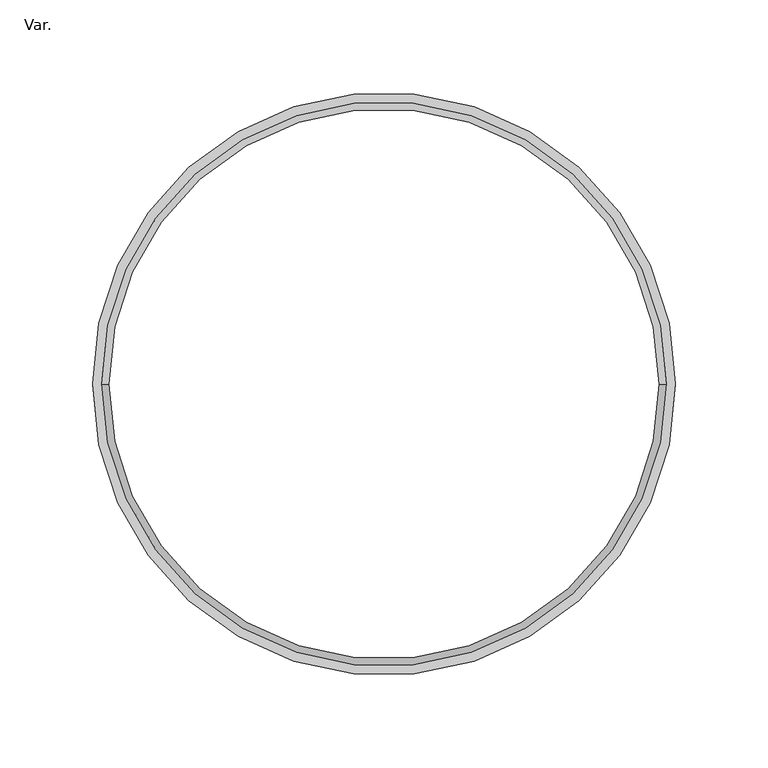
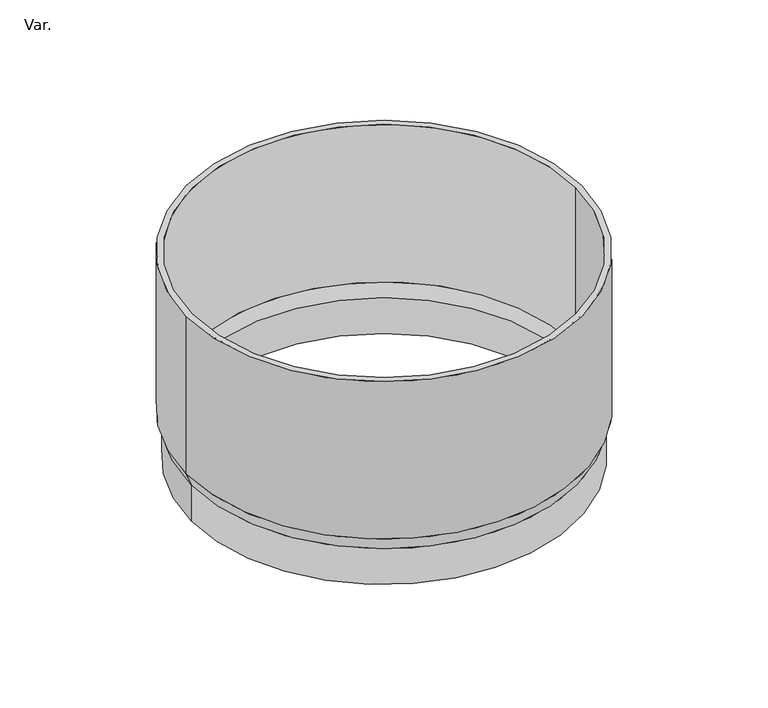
"""IFC4 building model written with IfcOpenShell, lengths in millimetres: pipe fitting geometry, AmancoWavin_ConexõesdeTubos_EsgotoZNãoUsarEsgotoProlongamento300mm : Var.."""

from ifc_helpers import new_model, si_unit, point, frame, origin, origin_2d, place, context, project, spatial, polyline, circle_curve, trimmed, segment, composite_curve, outline, extrude, source, transform, mapped, element, save
from ifc_brep_helpers import plane_surface, cylinder_surface, revolved_surface, advanced_brep


def var_155bfaf0(model_context):
    return source(origin(), model_context, "Body", "SolidModel", [
        extrude(outline(composite_curve([segment(trimmed(circle_curve(origin_2d(), 157.5), [point((-157.5, 0.0))], [point((157.5, 0.0))], False, "CARTESIAN"), True, "CONTINUOUS"), segment(trimmed(circle_curve(origin_2d(), 157.5), [point((157.5, 0.0))], [point((-157.5, 0.0))], False, "CARTESIAN"), True, "CONTINUOUS")], self_intersect=False), holes=[composite_curve([segment(trimmed(circle_curve(origin_2d(), 152.5), [point((-152.5, 0.0))], [point((152.5, 0.0))], True, "CARTESIAN"), True, "CONTINUOUS"), segment(trimmed(circle_curve(origin_2d(), 152.5), [point((152.5, 0.0))], [point((-152.5, 0.0))], True, "CARTESIAN"), True, "CONTINUOUS")], self_intersect=False)]), frame((0.0, 0.0, 40.9903811), z_axis=(0.0, 0.0, 1.0), x_axis=(1.0, 0.0, 0.0)), (0.0, 0.0, 1.0), 132.8096189),
        advanced_brep(
        [(153.8, 0.0, 30.2), (-153.8, 0.0, 30.2), (-157.5, 0.0, 40.9903811), (157.5, 0.0, 40.9903811), (153.8, 0.0, 0.0), (-153.8, 0.0, 0.0), (148.8, 0.0, 0.0), (-148.8, 0.0, 0.0), (148.8, 0.0, 30.2), (-148.8, 0.0, 30.2), (152.5, 0.0, 40.9903811), (-152.5, 0.0, 40.9903811)],
        [
            (0, 1, circle_curve(frame((0.0, 0.0, 30.2), z_axis=(0.0, 0.0, 1.0), x_axis=(-1.0, 0.0, 0.0)), 153.8)),
            (1, 2),
            (2, 3, circle_curve(frame((0.0, 0.0, 40.9903811), z_axis=(0.0, 0.0, -1.0), x_axis=(-1.0, 0.0, 0.0)), 157.5)),
            (3, 0),
            (1, 0, circle_curve(frame((0.0, 0.0, 30.2), z_axis=(0.0, 0.0, 1.0), x_axis=(-1.0, 0.0, 0.0)), 153.8)),
            (3, 2, circle_curve(frame((0.0, 0.0, 40.9903811), z_axis=(0.0, 0.0, -1.0), x_axis=(-1.0, 0.0, 0.0)), 157.5)),
            (4, 5, circle_curve(frame((0.0, 0.0, 0.0), z_axis=(0.0, 0.0, 1.0), x_axis=(-1.0, 0.0, 0.0)), 153.8)),
            (5, 1),
            (0, 4),
            (5, 4, circle_curve(frame((0.0, 0.0, 0.0), z_axis=(0.0, 0.0, 1.0), x_axis=(-1.0, 0.0, 0.0)), 153.8)),
            (6, 7, circle_curve(frame((0.0, 0.0, 0.0), z_axis=(0.0, 0.0, 1.0), x_axis=(-1.0, 0.0, 0.0)), 148.8)),
            (7, 5),
            (4, 6),
            (7, 6, circle_curve(frame((0.0, 0.0, 0.0), z_axis=(0.0, 0.0, 1.0), x_axis=(-1.0, 0.0, 0.0)), 148.8)),
            (8, 9, circle_curve(frame((0.0, 0.0, 30.2), z_axis=(0.0, 0.0, 1.0), x_axis=(-1.0, 0.0, 0.0)), 148.8)),
            (9, 7),
            (6, 8),
            (9, 8, circle_curve(frame((0.0, 0.0, 30.2), z_axis=(0.0, 0.0, 1.0), x_axis=(-1.0, 0.0, 0.0)), 148.8)),
            (10, 11, circle_curve(frame((0.0, 0.0, 40.9903811), z_axis=(0.0, 0.0, 1.0), x_axis=(-1.0, 0.0, 0.0)), 152.5)),
            (11, 9),
            (8, 10),
            (11, 10, circle_curve(frame((0.0, 0.0, 40.9903811), z_axis=(0.0, 0.0, 1.0), x_axis=(-1.0, 0.0, 0.0)), 152.5)),
            (2, 11),
            (10, 3),
        ],
        [
            revolved_surface(polyline([(-157.5, 0.0, 40.9903811), (-153.8, 0.0, 30.2)]), (0.0, 0.0, 2119.8843863), (0.0, 0.0, -1.0)),
            cylinder_surface(frame((0.0, 0.0, 2119.8843863), z_axis=(0.0, 0.0, -1.0), x_axis=(-1.0, 0.0, 0.0)), 153.8),
            plane_surface(frame((0.0, 0.0, 0.0), z_axis=(0.0, 0.0, -1.0), x_axis=(-1.0, 0.0, 0.0))),
            revolved_surface(polyline([(-148.8, 0.0, 0.0), (-148.8, 0.0, 30.199999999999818)]), (0.0, 0.0, 2119.8843863), (0.0, 0.0, -1.0)),
            revolved_surface(polyline([(-148.8, 0.0, 30.2), (-152.5, 0.0, 40.9903811)]), (0.0, 0.0, 2119.8843863), (0.0, 0.0, -1.0)),
            plane_surface(frame((0.0, 0.0, 40.9903811), z_axis=(0.0, 0.0, 1.0), x_axis=(-1.0, 0.0, 0.0))),
        ],
        [
            (0, [[1, 2, 3, 4]]),
            (0, [[5, -4, 6, -2]]),
            (1, [[7, 8, -1, 9]]),
            (1, [[10, -9, -5, -8]]),
            (2, [[11, 12, -7, 13]]),
            (2, [[14, -13, -10, -12]]),
            (3, [[15, 16, -11, 17]]),
            (3, [[18, -17, -14, -16]]),
            (4, [[19, 20, -15, 21]]),
            (4, [[22, -21, -18, -20]]),
            (5, [[-3, 23, -19, 24]]),
            (5, [[-6, -24, -22, -23]]),
        ],
    ),
    ])


if __name__ == "__main__":
    model = new_model("IFC4")
    model_context = context("Model", 3, world=origin())
    ifc_project = project(units=[si_unit("LENGTHUNIT", "METRE", prefix="MILLI")], contexts=[model_context])
    site = spatial("IfcSite", under=ifc_project)
    building = spatial("IfcBuilding", under=site)
    placement = place(None, origin())
    var_shape = var_155bfaf0(model_context)
    element("IfcPipeFitting", 1, ObjectType="AmancoWavin_ConexõesdeTubos_EsgotoZNãoUsarEsgotoProlongamento300mm : Var.", at=placement, inside=building, context=model_context, shape_type="MappedRepresentation", body=[
        mapped(var_shape, transform((0.0, 0.0, 0.0), x_axis=(1.0, 0.0, 0.0), y_axis=(0.0, 1.0, 0.0), z_axis=(0.0, 0.0, 1.0))),
    ])
    save(model, "model.ifc")
